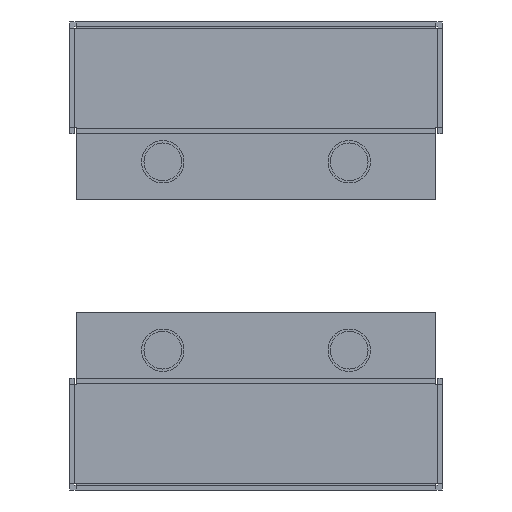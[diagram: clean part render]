
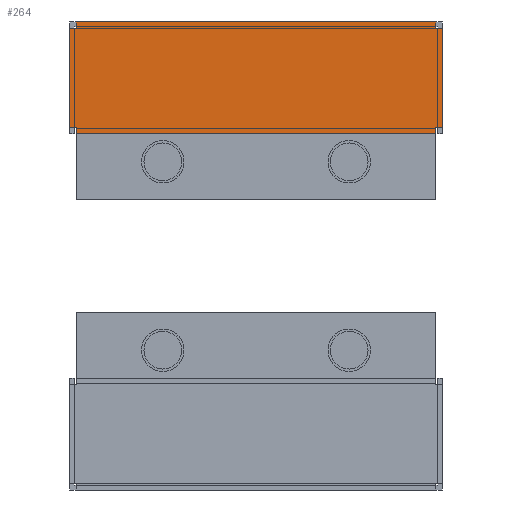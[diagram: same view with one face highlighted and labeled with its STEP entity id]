
A CAD part, left-side view. The second image highlights one B-rep face of the part: STEP entity #264.
In plain terms, the highlighted planar face has unit normal (-1, 0, 0) as drawn and (0, 0, -1) by its records, which use the part's own axes.
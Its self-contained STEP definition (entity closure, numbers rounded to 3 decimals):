
#264 = ADVANCED_FACE( '', ( #528 ), #529, .F. );
#528 = FACE_OUTER_BOUND( '', #820, .T. );
#529 = PLANE( '', #821 );
#820 = EDGE_LOOP( '', ( #1292, #1293, #1294, #1295, #1296, #1297, #1298, #1299, #1300, #1301, #1302, #1303 ) );
#821 = AXIS2_PLACEMENT_3D( '', #1304, #1305, #1306 );
#1292 = ORIENTED_EDGE( '', *, *, #1898, .F. );
#1293 = ORIENTED_EDGE( '', *, *, #1899, .T. );
#1294 = ORIENTED_EDGE( '', *, *, #1849, .F. );
#1295 = ORIENTED_EDGE( '', *, *, #1768, .T. );
#1296 = ORIENTED_EDGE( '', *, *, #1802, .T. );
#1297 = ORIENTED_EDGE( '', *, *, #1838, .T. );
#1298 = ORIENTED_EDGE( '', *, *, #1900, .T. );
#1299 = ORIENTED_EDGE( '', *, *, #1901, .T. );
#1300 = ORIENTED_EDGE( '', *, *, #1902, .T. );
#1301 = ORIENTED_EDGE( '', *, *, #1903, .F. );
#1302 = ORIENTED_EDGE( '', *, *, #1904, .F. );
#1303 = ORIENTED_EDGE( '', *, *, #1905, .T. );
#1304 = CARTESIAN_POINT( '', ( 57.96, -100., -43. ) );
#1305 = DIRECTION( '', ( 0., 0., 1. ) );
#1306 = DIRECTION( '', ( 1., 0., 0. ) );
#1768 = EDGE_CURVE( '', #2086, #2084, #2087, .T. );
#1802 = EDGE_CURVE( '', #2084, #2139, #2142, .T. );
#1838 = EDGE_CURVE( '', #2139, #2199, #2201, .T. );
#1849 = EDGE_CURVE( '', #2086, #2209, #2218, .T. );
#1898 = EDGE_CURVE( '', #2293, #2294, #2295, .T. );
#1899 = EDGE_CURVE( '', #2293, #2209, #2296, .T. );
#1900 = EDGE_CURVE( '', #2199, #2297, #2298, .T. );
#1901 = EDGE_CURVE( '', #2297, #2299, #2300, .T. );
#1902 = EDGE_CURVE( '', #2299, #2301, #2302, .T. );
#1903 = EDGE_CURVE( '', #2303, #2301, #2304, .T. );
#1904 = EDGE_CURVE( '', #2305, #2303, #2306, .T. );
#1905 = EDGE_CURVE( '', #2305, #2294, #2307, .T. );
#2084 = VERTEX_POINT( '', #2536 );
#2086 = VERTEX_POINT( '', #2539 );
#2087 = LINE( '', #2540, #2541 );
#2139 = VERTEX_POINT( '', #2614 );
#2142 = LINE( '', #2618, #2619 );
#2199 = VERTEX_POINT( '', #2700 );
#2201 = LINE( '', #2703, #2704 );
#2209 = VERTEX_POINT( '', #2715 );
#2218 = LINE( '', #2729, #2730 );
#2293 = VERTEX_POINT( '', #2841 );
#2294 = VERTEX_POINT( '', #2842 );
#2295 = LINE( '', #2843, #2844 );
#2296 = LINE( '', #2845, #2846 );
#2297 = VERTEX_POINT( '', #2847 );
#2298 = LINE( '', #2848, #2849 );
#2299 = VERTEX_POINT( '', #2850 );
#2300 = LINE( '', #2851, #2852 );
#2301 = VERTEX_POINT( '', #2853 );
#2302 = LINE( '', #2854, #2855 );
#2303 = VERTEX_POINT( '', #2856 );
#2304 = LINE( '', #2857, #2858 );
#2305 = VERTEX_POINT( '', #2859 );
#2306 = LINE( '', #2860, #2861 );
#2307 = LINE( '', #2862, #2863 );
#2536 = CARTESIAN_POINT( '', ( 57.78, -96.5, -43. ) );
#2539 = CARTESIAN_POINT( '', ( 57.78, 96.5, -43. ) );
#2540 = CARTESIAN_POINT( '', ( 57.78, 96.5, -43. ) );
#2541 = VECTOR( '', #3109, 1000. );
#2614 = CARTESIAN_POINT( '', ( 54.78, -96.5, -43. ) );
#2618 = CARTESIAN_POINT( '', ( 57.78, -96.5, -43. ) );
#2619 = VECTOR( '', #3138, 1000. );
#2700 = CARTESIAN_POINT( '', ( 54.78, -100., -43. ) );
#2703 = CARTESIAN_POINT( '', ( 54.78, 100., -43. ) );
#2704 = VECTOR( '', #3170, 1000. );
#2715 = CARTESIAN_POINT( '', ( 54.78, 96.5, -43. ) );
#2729 = CARTESIAN_POINT( '', ( 57.78, 96.5, -43. ) );
#2730 = VECTOR( '', #3179, 1000. );
#2841 = CARTESIAN_POINT( '', ( 54.78, 100., -43. ) );
#2842 = CARTESIAN_POINT( '', ( 1.46, 100., -43. ) );
#2843 = CARTESIAN_POINT( '', ( 57.96, 100., -43. ) );
#2844 = VECTOR( '', #3219, 1000. );
#2845 = CARTESIAN_POINT( '', ( 54.78, 100., -43. ) );
#2846 = VECTOR( '', #3220, 1000. );
#2847 = CARTESIAN_POINT( '', ( 1.46, -100., -43. ) );
#2848 = CARTESIAN_POINT( '', ( 57.96, -100., -43. ) );
#2849 = VECTOR( '', #3221, 1000. );
#2850 = CARTESIAN_POINT( '', ( 1.46, -96.5, -43. ) );
#2851 = CARTESIAN_POINT( '', ( 1.46, -100., -43. ) );
#2852 = VECTOR( '', #3222, 1000. );
#2853 = CARTESIAN_POINT( '', ( -2.04, -96.5, -43. ) );
#2854 = CARTESIAN_POINT( '', ( 1.46, -96.5, -43. ) );
#2855 = VECTOR( '', #3223, 1000. );
#2856 = CARTESIAN_POINT( '', ( -2.04, 96.5, -43. ) );
#2857 = CARTESIAN_POINT( '', ( -2.04, 96.5, -43. ) );
#2858 = VECTOR( '', #3224, 1000. );
#2859 = CARTESIAN_POINT( '', ( 1.46, 96.5, -43. ) );
#2860 = CARTESIAN_POINT( '', ( 1.46, 96.5, -43. ) );
#2861 = VECTOR( '', #3225, 1000. );
#2862 = CARTESIAN_POINT( '', ( 1.46, -100., -43. ) );
#2863 = VECTOR( '', #3226, 1000. );
#3109 = DIRECTION( '', ( 0., -1., 0. ) );
#3138 = DIRECTION( '', ( -1., 0., 0. ) );
#3170 = DIRECTION( '', ( 0., -1., 0. ) );
#3179 = DIRECTION( '', ( -1., 0., 0. ) );
#3219 = DIRECTION( '', ( -1., 0., 0. ) );
#3220 = DIRECTION( '', ( 0., -1., 0. ) );
#3221 = DIRECTION( '', ( -1., 0., 0. ) );
#3222 = DIRECTION( '', ( 0., 1., 0. ) );
#3223 = DIRECTION( '', ( -1., 0., 0. ) );
#3224 = DIRECTION( '', ( 0., -1., 0. ) );
#3225 = DIRECTION( '', ( -1., 0., 0. ) );
#3226 = DIRECTION( '', ( 0., 1., 0. ) );
